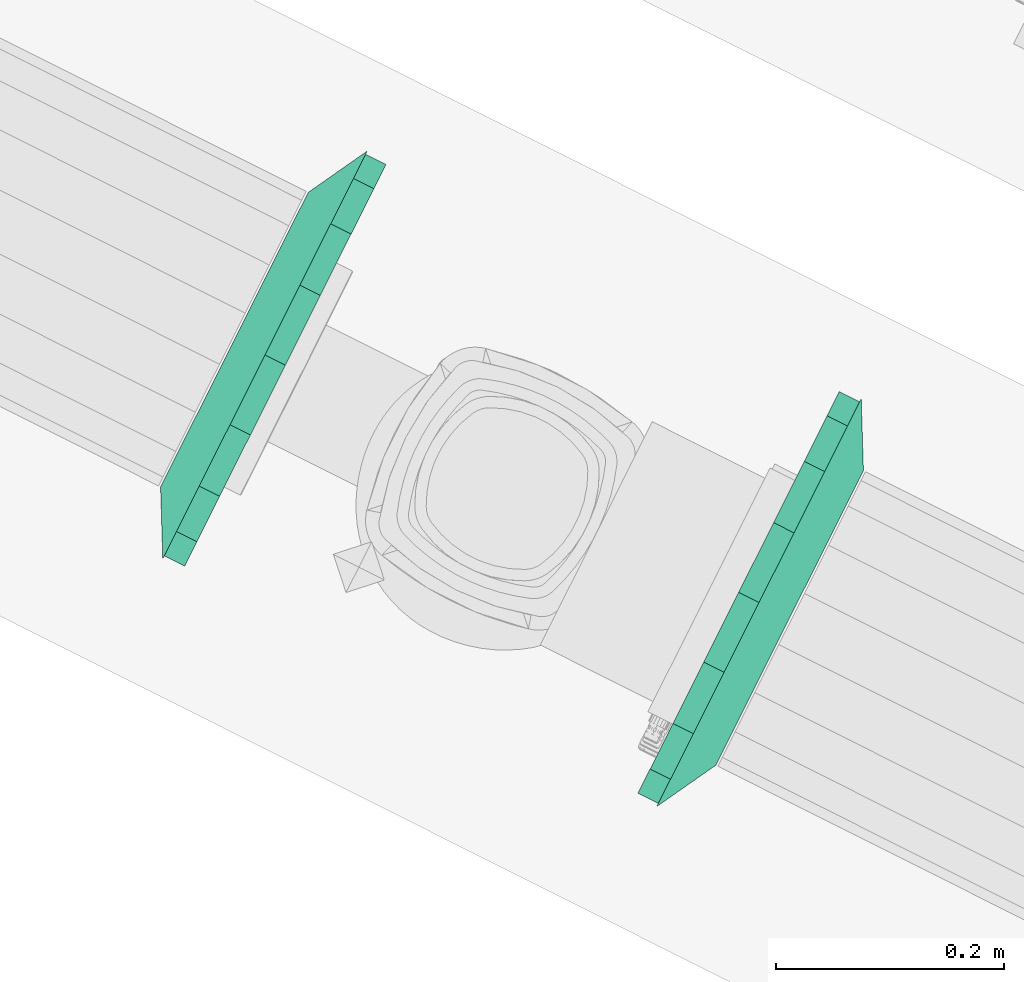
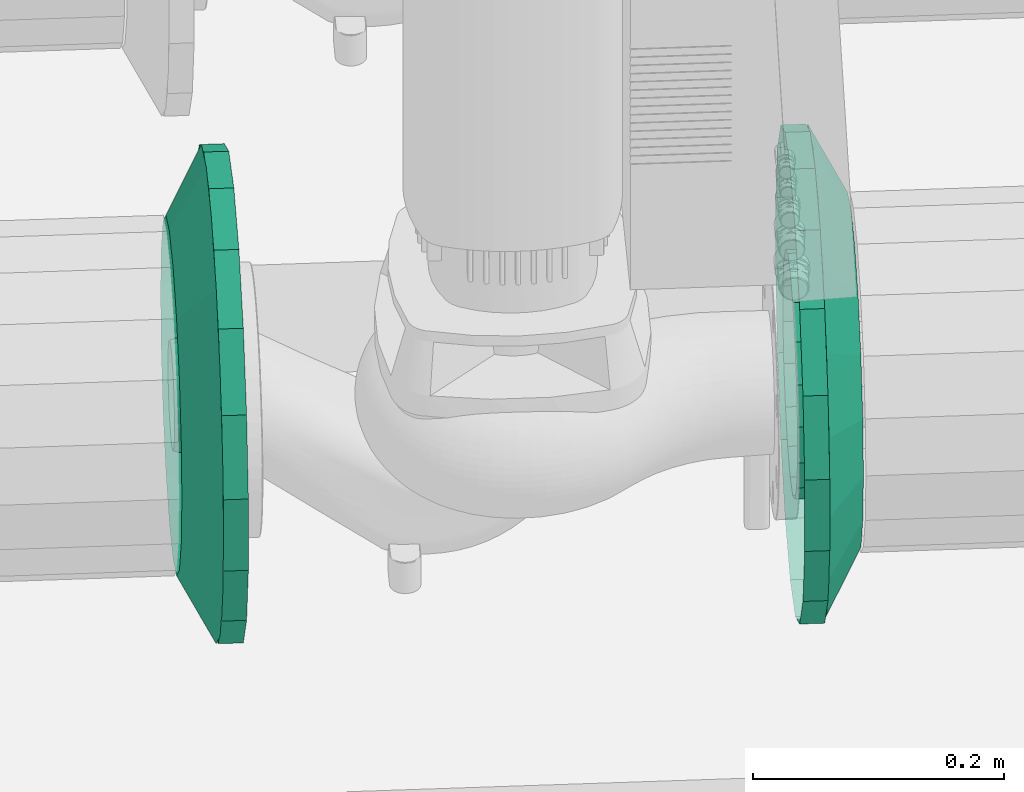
# One storey, part 16 of 152: 2 flow fittings.
"""IFC2X3 building model written with IfcOpenShell, lengths in metres."""

from ifc_helpers import new_model, si_unit, derived_unit, direction, frame, origin, place, context, subcontext, project, spatial, face_set, surface_model, source, transform, mapped, material, type_object, type_shapes, element, save


model = new_model("IFC2X3")

# Units and contexts
model_context = context("Model", 3, precision=5.2338327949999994e-05, world=origin(), true_north=direction((0.0, 1.0)))
body_context = subcontext(model_context, "Body", "Model", "MODEL_VIEW")
ifc_project = project(units=[si_unit("LENGTHUNIT", "METRE"), si_unit("AREAUNIT", "SQUARE_METRE"), si_unit("VOLUMEUNIT", "CUBIC_METRE"), si_unit("MASSUNIT", "GRAM", prefix="KILO"), si_unit("PLANEANGLEUNIT", "RADIAN"), derived_unit("THERMALTRANSMITTANCEUNIT", [(si_unit("MASSUNIT", "GRAM", prefix="KILO"), 1), (si_unit("THERMODYNAMICTEMPERATUREUNIT", "KELVIN"), -1), (si_unit("TIMEUNIT", "SECOND"), -3)])], contexts=[model_context])

# Site, building, storey
site_placement = place(None, frame((0.0, 0.0, 0.0), z_axis=(0.0, 0.0, 1.0), x_axis=(0.8939966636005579, -0.4480736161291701, 0.0)))
site = spatial("IfcSite", under=ifc_project, at=site_placement, Name="Default", CompositionType="ELEMENT")
building_placement = place(site_placement, origin())
building = spatial("IfcBuilding", under=site, at=building_placement, CompositionType="ELEMENT")
storey_placement = place(building_placement, frame((0.0, 0.0, 2.7499999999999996)))
storey = spatial("IfcBuildingStorey", under=building, at=storey_placement, Name="1. Obergeschoss", CompositionType="ELEMENT", Elevation=2.7499999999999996)

# Flow fittings
ifc_material = material(Name="IfcSurfaceStyle #9317")
distribution_element_type_1 = type_object("IfcDistributionElementType", Name="Flansch 16447:Flansch 16447", material=ifc_material)
shared_shape_1 = source(origin(), body_context, "Body", "SurfaceModel", [
    surface_model("IfcFaceBasedSurfaceModel", [(10.840519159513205, 5.856787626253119, 3.2251547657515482), (10.840519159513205, 5.890989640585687, 3.2311855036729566), (10.860519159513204, 5.890989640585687, 3.2311855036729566), (10.860519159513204, 5.856787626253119, 3.2251547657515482), (10.840519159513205, 5.9210663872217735, 3.2485503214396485), (10.860519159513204, 5.9210663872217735, 3.2485503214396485), (10.840519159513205, 5.943390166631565, 3.2751547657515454), (10.860519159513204, 5.943390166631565, 3.2751547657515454), (10.840519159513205, 5.955268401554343, 3.3077899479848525), (10.860519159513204, 5.955268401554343, 3.3077899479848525), (10.840519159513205, 5.955268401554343, 3.3425195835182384), (10.860519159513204, 5.955268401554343, 3.3425195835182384), (10.840519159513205, 5.943390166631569, 3.3751547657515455), (10.860519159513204, 5.943390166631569, 3.3751547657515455), (10.840519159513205, 5.92106638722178, 3.401759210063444), (10.860519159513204, 5.92106638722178, 3.401759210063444), (10.840519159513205, 5.890989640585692, 3.4191240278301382), (10.860519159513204, 5.890989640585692, 3.4191240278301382), (10.840519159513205, 5.856787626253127, 3.4251547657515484), (10.860519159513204, 5.856787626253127, 3.4251547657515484), (10.840519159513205, 5.822585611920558, 3.4191240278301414), (10.860519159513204, 5.822585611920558, 3.4191240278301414), (10.840519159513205, 5.7925088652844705, 3.4017592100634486), (10.860519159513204, 5.7925088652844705, 3.4017592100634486), (10.840519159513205, 5.7701850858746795, 3.3751547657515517), (10.860519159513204, 5.7701850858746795, 3.3751547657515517), (10.840519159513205, 5.758306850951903, 3.342519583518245), (10.860519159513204, 5.758306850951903, 3.342519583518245), (10.840519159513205, 5.758306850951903, 3.307789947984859), (10.860519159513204, 5.758306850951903, 3.307789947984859), (10.840519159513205, 5.770185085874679, 3.2751547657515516), (10.860519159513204, 5.770185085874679, 3.2751547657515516), (10.840519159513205, 5.792508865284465, 3.248550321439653), (10.860519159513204, 5.792508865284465, 3.248550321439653), (10.840519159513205, 5.822585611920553, 3.231185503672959), (10.860519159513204, 5.822585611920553, 3.231185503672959), (10.860519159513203, 5.856787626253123, 3.325154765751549), (10.860519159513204, 5.804287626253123, 3.3251547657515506), (10.860519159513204, 5.807453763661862, 3.3071987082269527), (10.890519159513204, 5.815018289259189, 3.3099519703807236), (10.890519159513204, 5.8123376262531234, 3.3251547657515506), (10.860519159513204, 5.816570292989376, 3.291408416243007), (10.890519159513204, 5.822736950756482, 3.296582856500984), (10.860519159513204, 5.830537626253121, 3.279688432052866), (10.890519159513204, 5.834562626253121, 3.286659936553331), (10.860519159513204, 5.847671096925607, 3.2734523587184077), (10.890519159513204, 5.849068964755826, 3.2813800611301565), (10.860519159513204, 5.865904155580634, 3.273452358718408), (10.890519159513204, 5.864506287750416, 3.2813800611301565), (10.860519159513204, 5.883037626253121, 3.279688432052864), (10.890519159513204, 5.879012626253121, 3.2866599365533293), (10.860519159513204, 5.8970049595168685, 3.291408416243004), (10.890519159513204, 5.890838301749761, 3.296582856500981), (10.860519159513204, 5.906121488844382, 3.3071987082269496), (10.890519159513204, 5.898556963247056, 3.309951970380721), (10.860519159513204, 5.909287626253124, 3.3251547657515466), (10.890519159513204, 5.901237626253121, 3.3251547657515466), (10.860519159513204, 5.9061214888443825, 3.343110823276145), (10.890519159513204, 5.898556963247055, 3.3403575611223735), (10.860519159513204, 5.89700495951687, 3.3589011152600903), (10.890519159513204, 5.890838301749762, 3.3537266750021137), (10.860519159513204, 5.883037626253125, 3.3706210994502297), (10.890519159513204, 5.8790126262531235, 3.363649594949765), (10.860519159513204, 5.865904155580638, 3.376857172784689), (10.890519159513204, 5.864506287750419, 3.368929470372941), (10.860519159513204, 5.847671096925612, 3.3768571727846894), (10.890519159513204, 5.849068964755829, 3.368929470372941), (10.860519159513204, 5.8305376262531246, 3.3706210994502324), (10.890519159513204, 5.834562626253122, 3.363649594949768), (10.860519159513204, 5.816570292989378, 3.358901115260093), (10.890519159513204, 5.822736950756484, 3.353726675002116), (10.860519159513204, 5.807453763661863, 3.3431108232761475), (10.890519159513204, 5.815018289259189, 3.340357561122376), (10.840519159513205, 5.856787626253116, 3.125154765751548), (10.840519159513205, 5.92519165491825, 3.137216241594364), (10.860519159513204, 5.92519165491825, 3.137216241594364), (10.860519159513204, 5.856787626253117, 3.125154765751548), (10.840519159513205, 5.985345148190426, 3.1719458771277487), (10.860519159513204, 5.985345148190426, 3.1719458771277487), (10.840519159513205, 6.029992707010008, 3.2251547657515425), (10.860519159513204, 6.029992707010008, 3.2251547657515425), (10.840519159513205, 6.053749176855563, 3.290425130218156), (10.860519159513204, 6.053749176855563, 3.290425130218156), (10.840519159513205, 6.053749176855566, 3.359884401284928), (10.860519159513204, 6.053749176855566, 3.359884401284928), (10.840519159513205, 6.029992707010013, 3.4251547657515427), (10.860519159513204, 6.029992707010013, 3.4251547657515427), (10.840519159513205, 5.985345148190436, 3.47836365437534), (10.860519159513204, 5.985345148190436, 3.47836365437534), (10.840519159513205, 5.925191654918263, 3.5130932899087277), (10.860519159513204, 5.925191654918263, 3.5130932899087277), (10.840519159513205, 5.856787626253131, 3.525154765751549), (10.860519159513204, 5.856787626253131, 3.525154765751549), (10.840519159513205, 5.788383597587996, 3.5130932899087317), (10.860519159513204, 5.788383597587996, 3.5130932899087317), (10.840519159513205, 5.72823010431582, 3.478363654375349), (10.860519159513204, 5.72823010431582, 3.478363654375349), (10.840519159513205, 5.683582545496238, 3.425154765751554), (10.860519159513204, 5.683582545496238, 3.425154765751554), (10.840519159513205, 5.659826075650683, 3.359884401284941), (10.860519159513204, 5.659826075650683, 3.359884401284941), (10.840519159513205, 5.659826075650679, 3.290425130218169), (10.860519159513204, 5.659826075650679, 3.290425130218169), (10.840519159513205, 5.683582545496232, 3.225154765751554), (10.860519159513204, 5.683582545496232, 3.225154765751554), (10.840519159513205, 5.72823010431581, 3.1719458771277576), (10.860519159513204, 5.72823010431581, 3.1719458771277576), (10.840519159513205, 5.788383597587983, 3.137216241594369), (10.860519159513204, 5.788383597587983, 3.137216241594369), (10.860519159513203, 5.656787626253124, 3.3251547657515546), (10.860519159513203, 5.6688491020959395, 3.2567507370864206), (10.890519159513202, 5.721049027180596, 3.27574995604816), (10.890519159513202, 5.712337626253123, 3.3251547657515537), (10.860519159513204, 5.703578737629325, 3.1965972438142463), (10.890519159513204, 5.746132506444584, 3.2323040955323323), (10.860519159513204, 5.756787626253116, 3.151949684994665), (10.890519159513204, 5.784562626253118, 3.20005739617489), (10.860519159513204, 5.822057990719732, 3.1281932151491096), (10.890519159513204, 5.831704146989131, 3.1828992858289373), (10.860519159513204, 5.891517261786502, 3.128193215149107), (10.890519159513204, 5.8818711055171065, 3.182899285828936), (10.860519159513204, 5.956787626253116, 3.151949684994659), (10.890519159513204, 5.929012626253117, 3.200057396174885), (10.860519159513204, 6.009996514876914, 3.1965972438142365), (10.890519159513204, 5.967442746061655, 3.2323040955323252), (10.860519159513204, 6.044726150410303, 3.2567507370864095), (10.890519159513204, 5.992526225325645, 3.2757499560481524), (10.860519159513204, 6.056787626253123, 3.325154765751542), (10.890519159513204, 6.001237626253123, 3.325154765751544), (10.860519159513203, 6.044726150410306, 3.3935587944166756), (10.890519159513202, 5.992526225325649, 3.374559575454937), (10.860519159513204, 6.0099965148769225, 3.4537122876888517), (10.890519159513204, 5.967442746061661, 3.4180054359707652), (10.860519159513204, 5.956787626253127, 3.498359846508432), (10.890519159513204, 5.929012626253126, 3.4502521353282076), (10.860519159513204, 5.891517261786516, 3.5221163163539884), (10.890519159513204, 5.881871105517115, 3.4674102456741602), (10.860519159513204, 5.822057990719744, 3.5221163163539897), (10.890519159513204, 5.831704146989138, 3.4674102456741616), (10.860519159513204, 5.756787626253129, 3.4983598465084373), (10.890519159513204, 5.784562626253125, 3.4502521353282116), (10.860519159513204, 5.703578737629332, 3.4537122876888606), (10.890519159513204, 5.74613250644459, 3.4180054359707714), (10.860519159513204, 5.668849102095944, 3.393558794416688), (10.890519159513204, 5.7210490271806, 3.3745595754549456)], [face_set([[[0, 1, 2, 3]], [[1, 4, 5, 2]], [[4, 6, 7, 5]], [[6, 8, 9, 7]], [[8, 10, 11, 9]], [[10, 12, 13, 11]], [[12, 14, 15, 13]], [[14, 16, 17, 15]], [[16, 18, 19, 17]], [[18, 20, 21, 19]], [[20, 22, 23, 21]], [[22, 24, 25, 23]], [[24, 26, 27, 25]], [[26, 28, 29, 27]], [[28, 30, 31, 29]], [[30, 32, 33, 31]], [[32, 34, 35, 33]], [[34, 0, 3, 35]], [[36, 35, 3]], [[36, 33, 35]], [[36, 31, 33]], [[36, 29, 31]], [[36, 27, 29]], [[36, 25, 27]], [[36, 23, 25]], [[36, 21, 23]], [[36, 19, 21]], [[36, 17, 19]], [[36, 15, 17]], [[36, 13, 15]], [[36, 11, 13]], [[36, 9, 11]], [[36, 7, 9]], [[36, 5, 7]], [[36, 2, 5]], [[36, 3, 2]], [[37, 38, 39, 40]], [[38, 41, 42, 39]], [[41, 43, 44, 42]], [[43, 45, 46, 44]], [[45, 47, 48, 46]], [[47, 49, 50, 48]], [[49, 51, 52, 50]], [[51, 53, 54, 52]], [[53, 55, 56, 54]], [[55, 57, 58, 56]], [[57, 59, 60, 58]], [[59, 61, 62, 60]], [[61, 63, 64, 62]], [[63, 65, 66, 64]], [[65, 67, 68, 66]], [[67, 69, 70, 68]], [[69, 71, 72, 70]], [[71, 37, 40, 72]], [[73, 74, 75, 76]], [[74, 77, 78, 75]], [[77, 79, 80, 78]], [[79, 81, 82, 80]], [[81, 83, 84, 82]], [[83, 85, 86, 84]], [[85, 87, 88, 86]], [[87, 89, 90, 88]], [[89, 91, 92, 90]], [[91, 93, 94, 92]], [[93, 95, 96, 94]], [[95, 97, 98, 96]], [[97, 99, 100, 98]], [[99, 101, 102, 100]], [[101, 103, 104, 102]], [[103, 105, 106, 104]], [[105, 107, 108, 106]], [[107, 73, 76, 108]], [[109, 110, 111, 112]], [[110, 113, 114, 111]], [[113, 115, 116, 114]], [[115, 117, 118, 116]], [[117, 119, 120, 118]], [[119, 121, 122, 120]], [[121, 123, 124, 122]], [[123, 125, 126, 124]], [[125, 127, 128, 126]], [[127, 129, 130, 128]], [[129, 131, 132, 130]], [[131, 133, 134, 132]], [[133, 135, 136, 134]], [[135, 137, 138, 136]], [[137, 139, 140, 138]], [[139, 141, 142, 140]], [[141, 143, 144, 142]], [[143, 109, 112, 144]]])]),
])
type_shapes(distribution_element_type_1, [shared_shape_1])
flow_fitting_1_placement = place(storey_placement, frame((0.0, 0.0, -2.7499999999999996)))
element("IfcFlowFitting", 1, at=flow_fitting_1_placement, inside=storey, type_object=distribution_element_type_1, material=ifc_material, Name="Flansch", ObjectType="Flansch", context=body_context, shape_type="MappedRepresentation", body=[
    mapped(shared_shape_1, transform((0.0, 0.0, 0.0), scale=1.0)),
])
distribution_element_type_2 = type_object("IfcDistributionElementType", Name="Flansch 17216:Flansch 17216", material=ifc_material)
shared_shape_2 = source(origin(), body_context, "Body", "SurfaceModel", [
    surface_model("IfcFaceBasedSurfaceModel", [(10.395925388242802, 5.856787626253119, 3.225154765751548), (10.395925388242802, 5.822585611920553, 3.2311855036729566), (10.375925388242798, 5.822585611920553, 3.2311855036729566), (10.375925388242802, 5.856787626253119, 3.225154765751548), (10.395925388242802, 5.792508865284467, 3.2485503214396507), (10.375925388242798, 5.792508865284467, 3.2485503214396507), (10.395925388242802, 5.770185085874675, 3.2751547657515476), (10.375925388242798, 5.770185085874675, 3.2751547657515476), (10.395925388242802, 5.758306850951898, 3.3077899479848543), (10.375925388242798, 5.758306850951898, 3.3077899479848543), (10.395925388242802, 5.758306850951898, 3.3425195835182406), (10.375925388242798, 5.758306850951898, 3.3425195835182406), (10.395925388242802, 5.770185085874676, 3.3751547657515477), (10.375925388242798, 5.770185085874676, 3.3751547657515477), (10.395925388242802, 5.792508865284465, 3.401759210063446), (10.375925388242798, 5.792508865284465, 3.401759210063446), (10.395925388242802, 5.822585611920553, 3.4191240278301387), (10.375925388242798, 5.822585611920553, 3.4191240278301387), (10.395925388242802, 5.856787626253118, 3.4251547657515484), (10.375925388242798, 5.856787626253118, 3.4251547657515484), (10.395925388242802, 5.890989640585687, 3.4191240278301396), (10.375925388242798, 5.890989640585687, 3.4191240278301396), (10.395925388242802, 5.921066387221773, 3.4017592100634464), (10.375925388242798, 5.921066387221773, 3.4017592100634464), (10.395925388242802, 5.9433901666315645, 3.3751547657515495), (10.375925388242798, 5.9433901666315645, 3.3751547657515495), (10.395925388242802, 5.955268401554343, 3.342519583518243), (10.375925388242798, 5.955268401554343, 3.342519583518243), (10.395925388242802, 5.955268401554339, 3.3077899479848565), (10.375925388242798, 5.955268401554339, 3.3077899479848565), (10.395925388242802, 5.9433901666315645, 3.27515476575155), (10.375925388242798, 5.9433901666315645, 3.27515476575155), (10.395925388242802, 5.9210663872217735, 3.248550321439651), (10.375925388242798, 5.9210663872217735, 3.248550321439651), (10.395925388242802, 5.890989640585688, 3.2311855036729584), (10.375925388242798, 5.890989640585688, 3.2311855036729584), (10.375925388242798, 5.856787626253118, 3.325154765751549), (10.375925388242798, 5.90928762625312, 3.325154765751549), (10.375925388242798, 5.906121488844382, 3.307198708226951), (10.345925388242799, 5.898556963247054, 3.309951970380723), (10.345925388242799, 5.9012376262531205, 3.3251547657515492), (10.375925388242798, 5.897004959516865, 3.2914084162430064), (10.345925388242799, 5.890838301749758, 3.2965828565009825), (10.375925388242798, 5.883037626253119, 3.279688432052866), (10.345925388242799, 5.87901262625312, 3.2866599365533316), (10.375925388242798, 5.865904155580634, 3.2734523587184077), (10.345925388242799, 5.864506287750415, 3.2813800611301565), (10.375925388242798, 5.847671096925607, 3.2734523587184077), (10.345925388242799, 5.849068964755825, 3.281380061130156), (10.375925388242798, 5.83053762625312, 3.279688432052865), (10.345925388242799, 5.8345626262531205, 3.2866599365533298), (10.375925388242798, 5.816570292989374, 3.291408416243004), (10.345925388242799, 5.822736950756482, 3.296582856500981), (10.375925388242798, 5.80745376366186, 3.307198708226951), (10.345925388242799, 5.815018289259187, 3.3099519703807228), (10.375925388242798, 5.80428762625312, 3.3251547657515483), (10.345925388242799, 5.812337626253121, 3.325154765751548), (10.375925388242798, 5.807453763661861, 3.343110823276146), (10.345925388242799, 5.8150182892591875, 3.3403575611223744), (10.375925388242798, 5.816570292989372, 3.3589011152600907), (10.345925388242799, 5.8227369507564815, 3.3537266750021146), (10.375925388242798, 5.83053762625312, 3.3706210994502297), (10.345925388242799, 5.834562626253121, 3.3636495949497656), (10.375925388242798, 5.847671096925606, 3.3768571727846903), (10.345925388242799, 5.849068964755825, 3.368929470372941), (10.375925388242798, 5.865904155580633, 3.37685717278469), (10.345925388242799, 5.864506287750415, 3.368929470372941), (10.375925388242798, 5.883037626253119, 3.370621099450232), (10.345925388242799, 5.87901262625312, 3.363649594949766), (10.375925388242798, 5.897004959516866, 3.358901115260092), (10.345925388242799, 5.89083830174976, 3.3537266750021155), (10.375925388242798, 5.906121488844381, 3.343110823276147), (10.345925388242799, 5.898556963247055, 3.3403575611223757), (10.395925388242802, 5.856787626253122, 3.125154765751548), (10.395925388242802, 5.788383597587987, 3.1372162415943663), (10.375925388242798, 5.788383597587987, 3.1372162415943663), (10.375925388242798, 5.856787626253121, 3.125154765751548), (10.395925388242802, 5.728230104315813, 3.1719458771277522), (10.375925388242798, 5.728230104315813, 3.1719458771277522), (10.395925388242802, 5.6835825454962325, 3.225154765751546), (10.375925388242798, 5.6835825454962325, 3.225154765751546), (10.395925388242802, 5.6598260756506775, 3.29042513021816), (10.375925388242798, 5.6598260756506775, 3.29042513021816), (10.395925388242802, 5.6598260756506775, 3.359884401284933), (10.375925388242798, 5.6598260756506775, 3.359884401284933), (10.395925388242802, 5.683582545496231, 3.4251547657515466), (10.375925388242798, 5.683582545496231, 3.4251547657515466), (10.395925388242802, 5.728230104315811, 3.4783636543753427), (10.375925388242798, 5.728230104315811, 3.4783636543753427), (10.395925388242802, 5.788383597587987, 3.5130932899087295), (10.375925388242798, 5.788383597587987, 3.5130932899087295), (10.395925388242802, 5.856787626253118, 3.525154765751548), (10.375925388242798, 5.856787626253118, 3.525154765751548), (10.395925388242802, 5.925191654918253, 3.5130932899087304), (10.375925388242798, 5.925191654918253, 3.5130932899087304), (10.395925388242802, 5.985345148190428, 3.4783636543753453), (10.375925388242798, 5.985345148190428, 3.4783636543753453), (10.395925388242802, 6.029992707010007, 3.4251547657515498), (10.375925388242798, 6.029992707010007, 3.4251547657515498), (10.395925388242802, 6.053749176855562, 3.359884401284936), (10.375925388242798, 6.053749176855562, 3.359884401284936), (10.395925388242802, 6.053749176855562, 3.2904251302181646), (10.375925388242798, 6.053749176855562, 3.2904251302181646), (10.395925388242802, 6.029992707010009, 3.2251547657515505), (10.375925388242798, 6.029992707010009, 3.2251547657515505), (10.395925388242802, 5.985345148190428, 3.1719458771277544), (10.375925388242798, 5.985345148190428, 3.1719458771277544), (10.395925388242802, 5.925191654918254, 3.137216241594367), (10.375925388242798, 5.925191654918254, 3.137216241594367), (10.375925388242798, 6.0567876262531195, 3.3251547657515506), (10.375925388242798, 6.044726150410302, 3.256750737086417), (10.345925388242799, 5.992526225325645, 3.2757499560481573), (10.345925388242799, 6.001237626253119, 3.3251547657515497), (10.375925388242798, 6.009996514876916, 3.1965972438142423), (10.345925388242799, 5.967442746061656, 3.232304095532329), (10.375925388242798, 5.956787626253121, 3.1519496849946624), (10.345925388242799, 5.9290126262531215, 3.2000573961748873), (10.375925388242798, 5.891517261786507, 3.128193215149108), (10.345925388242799, 5.881871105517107, 3.182899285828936), (10.375925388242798, 5.822057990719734, 3.128193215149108), (10.345925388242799, 5.831704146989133, 3.182899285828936), (10.375925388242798, 5.7567876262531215, 3.1519496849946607), (10.345925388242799, 5.78456262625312, 3.2000573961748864), (10.375925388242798, 5.703578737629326, 3.1965972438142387), (10.345925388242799, 5.746132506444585, 3.2323040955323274), (10.375925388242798, 5.6688491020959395, 3.256750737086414), (10.345925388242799, 5.721049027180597, 3.275749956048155), (10.375925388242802, 5.656787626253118, 3.3251547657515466), (10.3459253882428, 5.712337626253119, 3.3251547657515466), (10.375925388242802, 5.668849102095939, 3.39355879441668), (10.3459253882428, 5.721049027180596, 3.37455957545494), (10.375925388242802, 5.703578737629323, 3.453712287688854), (10.3459253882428, 5.7461325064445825, 3.4180054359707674), (10.375925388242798, 5.7567876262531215, 3.4983598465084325), (10.345925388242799, 5.784562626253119, 3.4502521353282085), (10.375925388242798, 5.822057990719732, 3.522116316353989), (10.345925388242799, 5.831704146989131, 3.4674102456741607), (10.375925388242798, 5.891517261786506, 3.52211631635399), (10.345925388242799, 5.881871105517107, 3.4674102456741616), (10.375925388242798, 5.956787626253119, 3.498359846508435), (10.345925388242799, 5.929012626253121, 3.4502521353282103), (10.375925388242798, 6.009996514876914, 3.4537122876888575), (10.345925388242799, 5.967442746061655, 3.41800543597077), (10.375925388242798, 6.044726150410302, 3.393558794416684), (10.345925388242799, 5.992526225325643, 3.3745595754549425)], [face_set([[[0, 1, 2, 3]], [[1, 4, 5, 2]], [[4, 6, 7, 5]], [[6, 8, 9, 7]], [[8, 10, 11, 9]], [[10, 12, 13, 11]], [[12, 14, 15, 13]], [[14, 16, 17, 15]], [[16, 18, 19, 17]], [[18, 20, 21, 19]], [[20, 22, 23, 21]], [[22, 24, 25, 23]], [[24, 26, 27, 25]], [[26, 28, 29, 27]], [[28, 30, 31, 29]], [[30, 32, 33, 31]], [[32, 34, 35, 33]], [[34, 0, 3, 35]], [[36, 35, 3]], [[36, 33, 35]], [[36, 31, 33]], [[36, 29, 31]], [[36, 27, 29]], [[36, 25, 27]], [[36, 23, 25]], [[36, 21, 23]], [[36, 19, 21]], [[36, 17, 19]], [[36, 15, 17]], [[36, 13, 15]], [[36, 11, 13]], [[36, 9, 11]], [[36, 7, 9]], [[36, 5, 7]], [[36, 2, 5]], [[36, 3, 2]], [[37, 38, 39, 40]], [[38, 41, 42, 39]], [[41, 43, 44, 42]], [[43, 45, 46, 44]], [[45, 47, 48, 46]], [[47, 49, 50, 48]], [[49, 51, 52, 50]], [[51, 53, 54, 52]], [[53, 55, 56, 54]], [[55, 57, 58, 56]], [[57, 59, 60, 58]], [[59, 61, 62, 60]], [[61, 63, 64, 62]], [[63, 65, 66, 64]], [[65, 67, 68, 66]], [[67, 69, 70, 68]], [[69, 71, 72, 70]], [[71, 37, 40, 72]], [[73, 74, 75, 76]], [[74, 77, 78, 75]], [[77, 79, 80, 78]], [[79, 81, 82, 80]], [[81, 83, 84, 82]], [[83, 85, 86, 84]], [[85, 87, 88, 86]], [[87, 89, 90, 88]], [[89, 91, 92, 90]], [[91, 93, 94, 92]], [[93, 95, 96, 94]], [[95, 97, 98, 96]], [[97, 99, 100, 98]], [[99, 101, 102, 100]], [[101, 103, 104, 102]], [[103, 105, 106, 104]], [[105, 107, 108, 106]], [[107, 73, 76, 108]], [[109, 110, 111, 112]], [[110, 113, 114, 111]], [[113, 115, 116, 114]], [[115, 117, 118, 116]], [[117, 119, 120, 118]], [[119, 121, 122, 120]], [[121, 123, 124, 122]], [[123, 125, 126, 124]], [[125, 127, 128, 126]], [[127, 129, 130, 128]], [[129, 131, 132, 130]], [[131, 133, 134, 132]], [[133, 135, 136, 134]], [[135, 137, 138, 136]], [[137, 139, 140, 138]], [[139, 141, 142, 140]], [[141, 143, 144, 142]], [[143, 109, 112, 144]]])]),
])
type_shapes(distribution_element_type_2, [shared_shape_2])
flow_fitting_2_placement = place(storey_placement, frame((0.0, 0.0, -2.7499999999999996)))
element("IfcFlowFitting", 2, at=flow_fitting_2_placement, inside=storey, type_object=distribution_element_type_2, material=ifc_material, Name="Flansch", ObjectType="Flansch", context=body_context, shape_type="MappedRepresentation", body=[
    mapped(shared_shape_2, transform((0.0, 0.0, 0.0), scale=1.0)),
])

save(model, "model.ifc")
